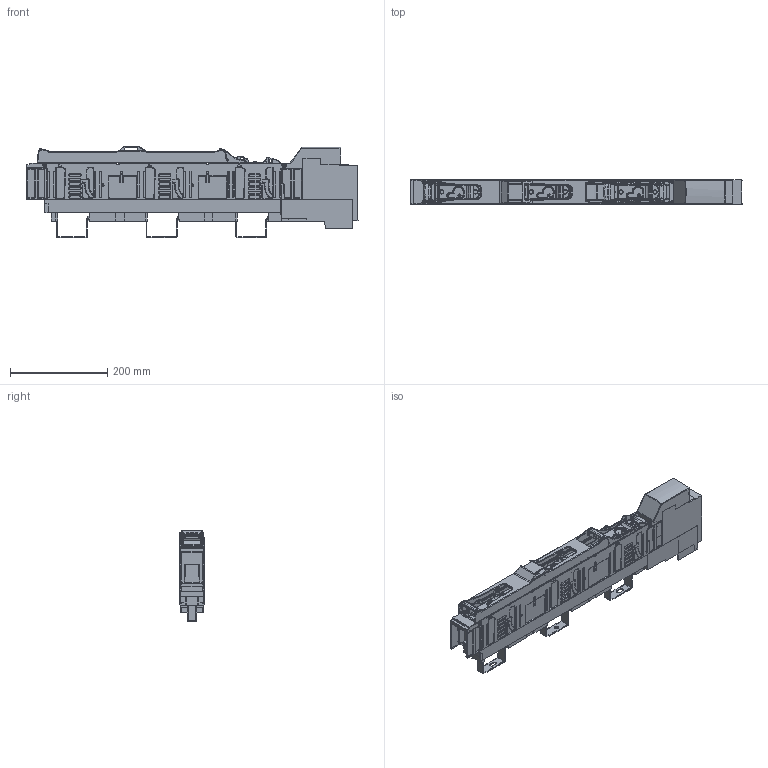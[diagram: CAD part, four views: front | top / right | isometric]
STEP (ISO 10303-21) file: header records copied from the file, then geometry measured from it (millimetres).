
FILE_DESCRIPTION(/* description */ (''),/* implementation_level */ '2;1');
FILE_NAME(/* name */ 'smartARS 00-3-V-W pro.stp',/* time_stamp */ '2020-03-16T09:35:34+01:00',/* author */ (''),/* organization */ (''),/* preprocessor_version */ 'ST-DEVELOPER v16',/* originating_system */ 'SIEMENS PLM Software NX 10.0',/* authorisation */ '');
FILE_SCHEMA (('AUTOMOTIVE_DESIGN { 1 0 10303 214 3 1 1 1 }'));
Products named in the file (1): 710_297CCC3Ba3s6
Bounding box: 684.23 x 50.42 x 187.87 mm (x, y, z)
Volume: 3001991.7 mm3; surface area: 489735.6 mm2
Topology: 1 solids, 3 shells, 6923 faces, 18037 edges, 11086 vertices
Faces by surface type: plane 2591, cylinder 1712, bspline 1624, torus 382, cone 369, sphere 245
Full cylindrical faces by diameter (mm): 2.549 x2, 2.9 x1, 3.1 x1, 3.5 x2, 4.8 x6, 5.6 x1, 6 x5, 8.8 x1, 14.5 x1
Entity records: 265169 total; most frequent: CARTESIAN_POINT 110958, ORIENTED_EDGE 35412, DIRECTION 27886, EDGE_CURVE 17706, VERTEX_POINT 11044, AXIS2_PLACEMENT_3D 9560, LINE 8766, VECTOR 8766
